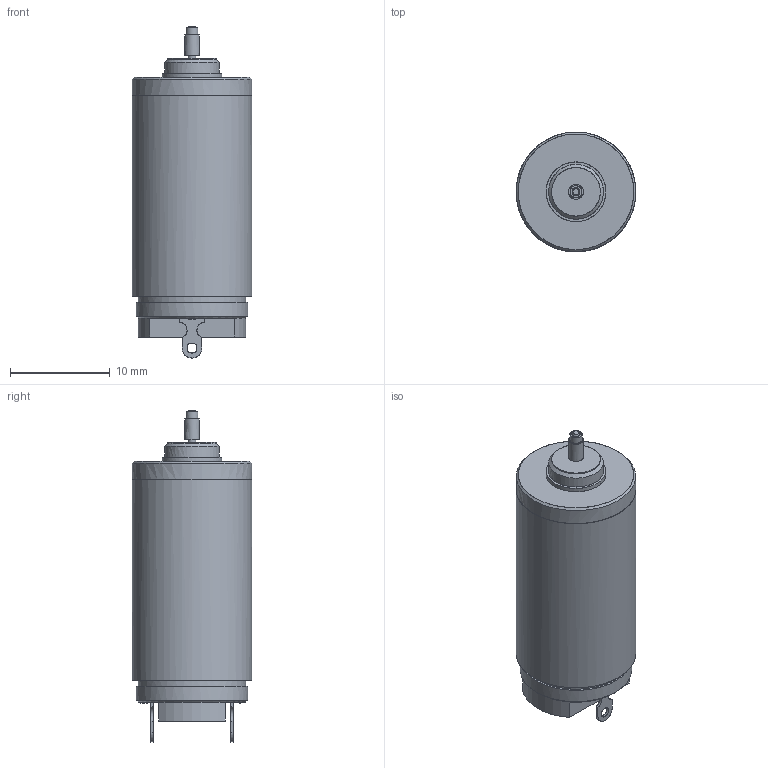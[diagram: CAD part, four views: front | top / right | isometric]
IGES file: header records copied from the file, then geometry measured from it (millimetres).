
Global section: file name: D:\Daten-Huge\PLM_Export\A_Internet_Modelle\Motoren\12xx\1224\1224N_S+SR.igs; native system: NX V7.5; preprocessor: SIEMENS PLM Software NX 7.5; author: DR. FRITZ FAULHABER GmbH & Co. KG; organization: DR. FRITZ FAULHABER GmbH & Co. KG; date: 20131018.144810; units: millimetre
Bounding box: 12 x 12 x 33.35 mm (x, y, z)
Surface area: 1275.3 mm2 (no closed solid volume)
Topology: 0 solids, 0 shells, 71 faces, 484 edges, 463 vertices
Faces by surface type: bspline 71
